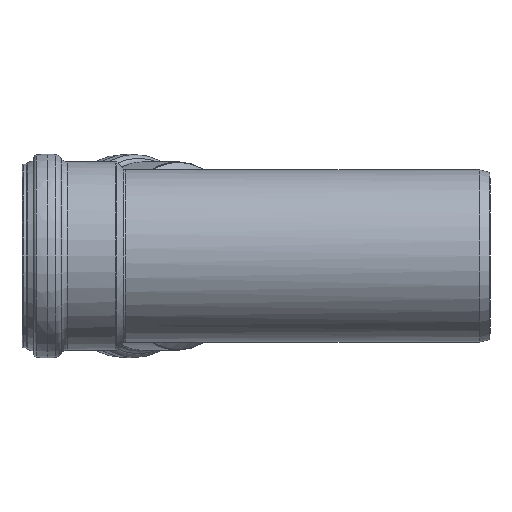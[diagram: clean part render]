
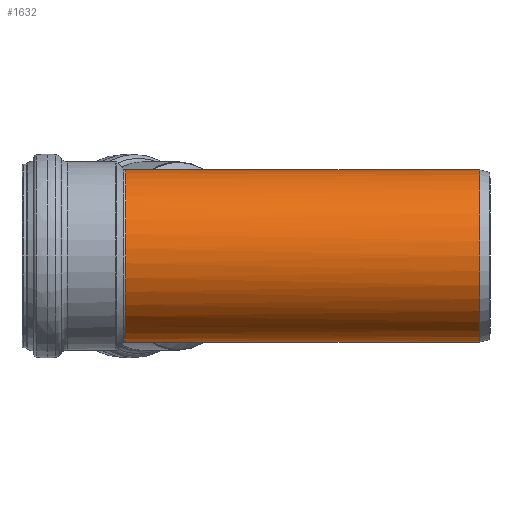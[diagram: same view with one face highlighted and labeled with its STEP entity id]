
A CAD part, left-side view. The second image highlights one B-rep face of the part: STEP entity #1632.
In plain terms, the highlighted cylindrical face has radius 55.15 mm (diameter 110.3 mm), a full revolution.
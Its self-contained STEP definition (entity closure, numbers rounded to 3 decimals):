
#109=LINE('',#3830,#140);
#140=VECTOR('',#2550,55.15);
#158=CYLINDRICAL_SURFACE('',#1942,55.15);
#254=FACE_OUTER_BOUND('',#347,.T.);
#347=EDGE_LOOP('',(#1508,#1509,#1510,#1511,#1512,#1513,#1514,#1515));
#353=ELLIPSE('',#1662,145.23,55.15);
#359=ELLIPSE('',#1675,145.23,55.15);
#361=ELLIPSE('',#1689,60.016,55.15);
#362=ELLIPSE('',#1690,60.016,55.15);
#564=CIRCLE('',#1941,55.15);
#565=CIRCLE('',#1943,55.15);
#574=VERTEX_POINT('',#2620);
#575=VERTEX_POINT('',#2622);
#590=VERTEX_POINT('',#3189);
#591=VERTEX_POINT('',#3255);
#595=VERTEX_POINT('',#3315);
#746=VERTEX_POINT('',#3826);
#752=EDGE_CURVE('',#574,#575,#353,.T.);
#777=EDGE_CURVE('',#591,#590,#359,.T.);
#787=EDGE_CURVE('',#575,#595,#361,.T.);
#788=EDGE_CURVE('',#595,#591,#362,.T.);
#1002=EDGE_CURVE('',#746,#746,#564,.T.);
#1004=EDGE_CURVE('',#595,#746,#109,.T.);
#1005=EDGE_CURVE('',#590,#574,#565,.T.);
#1508=ORIENTED_EDGE('',*,*,#777,.F.);
#1509=ORIENTED_EDGE('',*,*,#788,.F.);
#1510=ORIENTED_EDGE('',*,*,#1004,.T.);
#1511=ORIENTED_EDGE('',*,*,#1002,.T.);
#1512=ORIENTED_EDGE('',*,*,#1004,.F.);
#1513=ORIENTED_EDGE('',*,*,#787,.F.);
#1514=ORIENTED_EDGE('',*,*,#752,.F.);
#1515=ORIENTED_EDGE('',*,*,#1005,.F.);
#1632=ADVANCED_FACE('',(#254),#158,.T.);
#1662=AXIS2_PLACEMENT_3D('',#2623,#1959,#1960);
#1675=AXIS2_PLACEMENT_3D('',#3257,#1985,#1986);
#1689=AXIS2_PLACEMENT_3D('',#3316,#2014,#2015);
#1690=AXIS2_PLACEMENT_3D('',#3317,#2016,#2017);
#1941=AXIS2_PLACEMENT_3D('',#3827,#2545,#2546);
#1942=AXIS2_PLACEMENT_3D('',#3829,#2548,#2549);
#1943=AXIS2_PLACEMENT_3D('',#3831,#2551,#2552);
#1959=DIRECTION('center_axis',(0.925,-0.38,0.));
#1960=DIRECTION('ref_axis',(0.38,0.925,0.));
#1985=DIRECTION('center_axis',(0.925,-0.38,0.));
#1986=DIRECTION('ref_axis',(0.38,0.925,0.));
#2014=DIRECTION('center_axis',(0.394,0.919,0.));
#2015=DIRECTION('ref_axis',(0.919,-0.394,0.));
#2016=DIRECTION('center_axis',(0.394,0.919,0.));
#2017=DIRECTION('ref_axis',(0.919,-0.394,0.));
#2545=DIRECTION('center_axis',(0.,1.,0.));
#2546=DIRECTION('ref_axis',(1.,0.,0.));
#2548=DIRECTION('center_axis',(0.,1.,0.));
#2549=DIRECTION('ref_axis',(-1.,0.,0.));
#2550=DIRECTION('',(0.,-1.,0.));
#2551=DIRECTION('center_axis',(0.,1.,0.));
#2552=DIRECTION('ref_axis',(1.,0.,0.));
#2620=CARTESIAN_POINT('',(52.577,233.083,16.648));
#2622=CARTESIAN_POINT('',(0.,105.,55.15));
#2623=CARTESIAN_POINT('Origin',(0.,105.,0.));
#3189=CARTESIAN_POINT('',(52.577,233.083,-16.648));
#3255=CARTESIAN_POINT('',(0.,105.,-55.15));
#3257=CARTESIAN_POINT('Origin',(0.,105.,0.));
#3315=CARTESIAN_POINT('',(55.15,81.328,0.));
#3316=CARTESIAN_POINT('Origin',(0.,105.,0.));
#3317=CARTESIAN_POINT('Origin',(0.,105.,0.));
#3826=CARTESIAN_POINT('',(55.15,6.5,0.));
#3827=CARTESIAN_POINT('Origin',(0.,6.5,
0.));
#3829=CARTESIAN_POINT('Origin',(0.,119.792,0.));
#3830=CARTESIAN_POINT('',(55.15,119.792,0.));
#3831=CARTESIAN_POINT('Origin',(0.,233.083,
0.));
